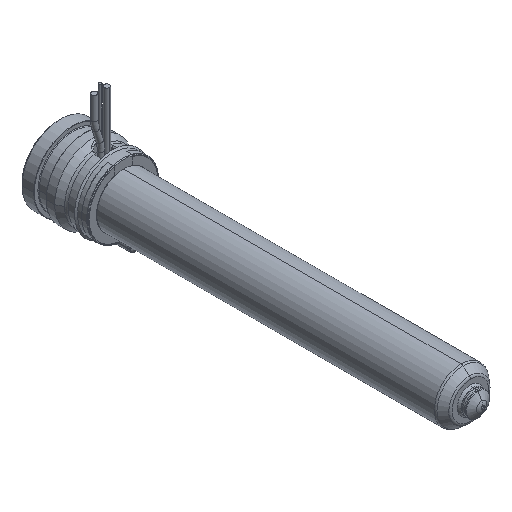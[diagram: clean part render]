
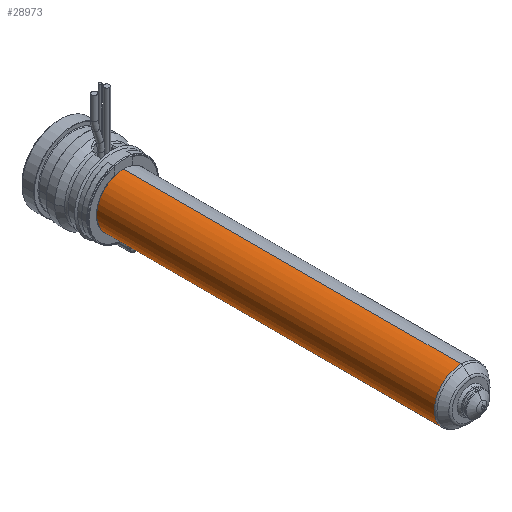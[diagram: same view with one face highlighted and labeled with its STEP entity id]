
A CAD part, isometric view. The second image highlights one B-rep face of the part: STEP entity #28973.
In plain terms, the highlighted cylindrical face has radius 9 mm (diameter 18 mm), a partial arc.
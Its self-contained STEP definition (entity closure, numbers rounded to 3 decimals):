
#28362=CARTESIAN_POINT('',(0.,-135.836,0.));
#28363=DIRECTION('',(0.,-1.,0.));
#28364=DIRECTION('',(0.,0.,1.));
#28365=AXIS2_PLACEMENT_3D('',#28362,#28363,#28364);
#28370=CARTESIAN_POINT('',(0.,-22.,0.));
#28371=DIRECTION('',(0.,-1.,0.));
#28372=DIRECTION('',(0.,0.,1.));
#28373=AXIS2_PLACEMENT_3D('',#28370,#28371,#28372);
#28378=DIRECTION('',(0.,-1.,0.));
#28379=VECTOR('',#28378,113.836);
#28380=CARTESIAN_POINT('',(0.,-22.,9.));
#28381=LINE('',#28380,#28379);
#28393=DIRECTION('',(0.,-1.,0.));
#28394=VECTOR('',#28393,113.836);
#28395=CARTESIAN_POINT('',(0.,-22.,-9.));
#28396=LINE('',#28395,#28394);
#28590=CARTESIAN_POINT('',(0.,-22.,9.));
#28591=CARTESIAN_POINT('',(0.,-135.836,9.));
#28592=VERTEX_POINT('',#28590);
#28593=VERTEX_POINT('',#28591);
#28616=CARTESIAN_POINT('',(0.,-22.,-9.));
#28617=CARTESIAN_POINT('',(0.,-135.836,-9.));
#28618=VERTEX_POINT('',#28616);
#28619=VERTEX_POINT('',#28617);
#28959=CARTESIAN_POINT('',(0.,-11.7,0.));
#28960=DIRECTION('',(0.,-1.,0.));
#28961=DIRECTION('',(0.,0.,1.));
#28962=AXIS2_PLACEMENT_3D('',#28959,#28960,#28961);
#28963=CYLINDRICAL_SURFACE('',#28962,9.);
#28965=ORIENTED_EDGE('',*,*,#28964,.T.);
#28966=ORIENTED_EDGE('',*,*,#28954,.T.);
#28968=ORIENTED_EDGE('',*,*,#28967,.F.);
#28970=ORIENTED_EDGE('',*,*,#28969,.F.);
#28971=EDGE_LOOP('',(#28965,#28966,#28968,#28970));
#28972=FACE_OUTER_BOUND('',#28971,.F.);
#28973=ADVANCED_FACE('',(#28972),#28963,.T.);
#28366=CIRCLE('',#28365,9.);
#28374=CIRCLE('',#28373,9.);
#28954=EDGE_CURVE('',#28593,#28619,#28366,.T.);
#28964=EDGE_CURVE('',#28592,#28593,#28381,.T.);
#28967=EDGE_CURVE('',#28618,#28619,#28396,.T.);
#28969=EDGE_CURVE('',#28592,#28618,#28374,.T.);
